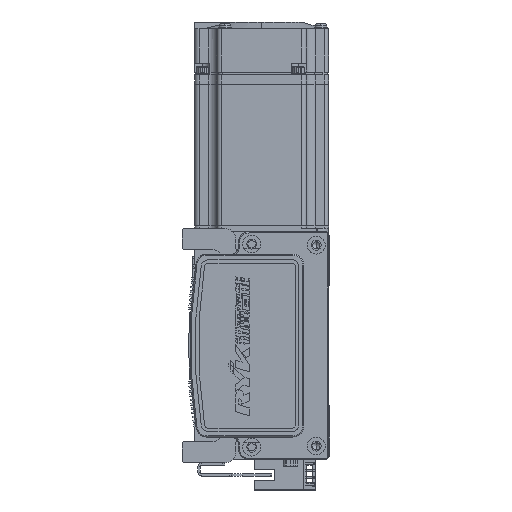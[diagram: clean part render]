
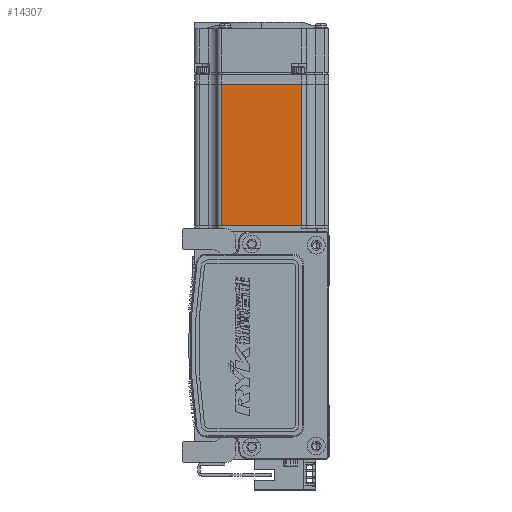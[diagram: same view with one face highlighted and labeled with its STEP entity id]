
A CAD part, left-side view. The second image highlights one B-rep face of the part: STEP entity #14307.
In plain terms, the highlighted planar face has unit normal (-1, 0, 0) as drawn and (0, 0, -1) by its records, which use the part's own axes.
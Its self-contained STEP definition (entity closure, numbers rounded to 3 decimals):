
#6405 = VERTEX_POINT ( 'NONE', #38731 ) ;
#10242 = CARTESIAN_POINT ( 'NONE',  ( -7.75, 25., -30. ) ) ;
#14241 = CARTESIAN_POINT ( 'NONE',  ( -7.75, 18., -30. ) ) ;
#14307 = ADVANCED_FACE ( 'NONE', ( #53347 ), #52021, .T. ) ;
#14446 = EDGE_CURVE ( 'NONE', #6405, #34599, #64915, .T. ) ;
#14865 = CARTESIAN_POINT ( 'NONE',  ( -70.95, -18., -30. ) ) ;
#20068 = CARTESIAN_POINT ( 'NONE',  ( -7.75, -18., -30. ) ) ;
#24502 = EDGE_CURVE ( 'NONE', #31733, #6405, #47768, .T. ) ;
#25381 = ORIENTED_EDGE ( 'NONE', *, *, #14446, .T. ) ;
#31733 = VERTEX_POINT ( 'NONE', #14865 ) ;
#33553 = DIRECTION ( 'NONE',  ( 0., -1., 0. ) ) ;
#33861 = DIRECTION ( 'NONE',  ( 0., 0., -1. ) ) ;
#34599 = VERTEX_POINT ( 'NONE', #14241 ) ;
#35699 = VERTEX_POINT ( 'NONE', #20068 ) ;
#38731 = CARTESIAN_POINT ( 'NONE',  ( -70.95, 18., -30. ) ) ;
#42626 = ORIENTED_EDGE ( 'NONE', *, *, #47486, .T. ) ;
#45116 = VECTOR ( 'NONE', #33553, 1000. ) ;
#47486 = EDGE_CURVE ( 'NONE', #35699, #31733, #65384, .T. ) ;
#47719 = DIRECTION ( 'NONE',  ( 1., 0., 0. ) ) ;
#47768 = LINE ( 'NONE', #71446, #60451 ) ;
#48691 = CARTESIAN_POINT ( 'NONE',  ( -6.5, -18., -30. ) ) ;
#49670 = VECTOR ( 'NONE', #47719, 1000. ) ;
#51934 = VECTOR ( 'NONE', #60479, 1000. ) ;
#52021 = PLANE ( 'NONE',  #53380 ) ;
#53347 = FACE_OUTER_BOUND ( 'NONE', #73835, .T. ) ;
#53380 = AXIS2_PLACEMENT_3D ( 'NONE', #74386, #33861, #57776 ) ;
#57776 = DIRECTION ( 'NONE',  ( -1., 0., 0. ) ) ;
#57952 = EDGE_CURVE ( 'NONE', #34599, #35699, #60414, .T. ) ;
#59397 = DIRECTION ( 'NONE',  ( 0., 1., 0. ) ) ;
#60414 = LINE ( 'NONE', #10242, #45116 ) ;
#60451 = VECTOR ( 'NONE', #59397, 1000. ) ;
#60479 = DIRECTION ( 'NONE',  ( -1., 0., 0. ) ) ;
#61690 = ORIENTED_EDGE ( 'NONE', *, *, #57952, .T. ) ;
#64915 = LINE ( 'NONE', #65276, #49670 ) ;
#65276 = CARTESIAN_POINT ( 'NONE',  ( -6.5, 18., -30. ) ) ;
#65384 = LINE ( 'NONE', #48691, #51934 ) ;
#71446 = CARTESIAN_POINT ( 'NONE',  ( -70.95, 25., -30. ) ) ;
#72124 = ORIENTED_EDGE ( 'NONE', *, *, #24502, .T. ) ;
#73835 = EDGE_LOOP ( 'NONE', ( #61690, #42626, #72124, #25381 ) ) ;
#74386 = CARTESIAN_POINT ( 'NONE',  ( -6.5, 25., -30. ) ) ;
